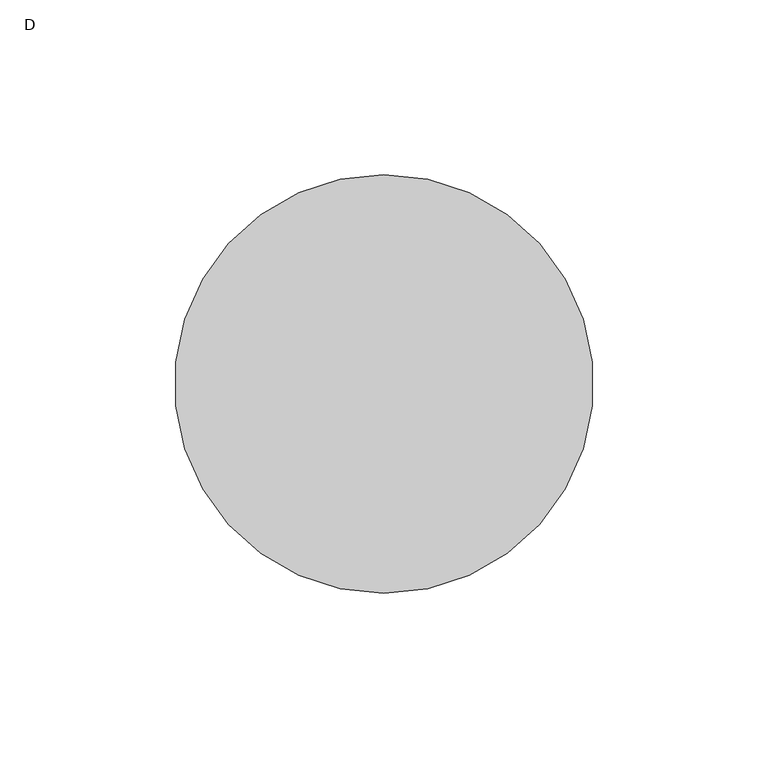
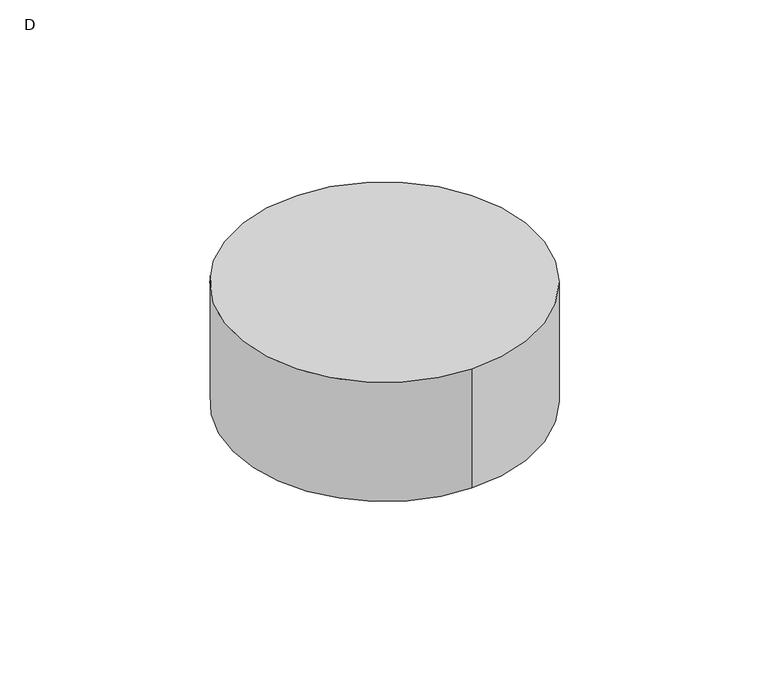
"""IFC4 building model written with IfcOpenShell, lengths in millimetres: switching device geometry, AI_Dispositif d'éclairage_Détecteur de présence : D."""

from ifc_helpers import new_model, si_unit, point, frame, origin, origin_2d, place, context, project, spatial, circle_curve, trimmed, segment, composite_curve, outline, extrude, source, transform, mapped, element, save


def d_9511c083(model_context):
    return source(origin(), model_context, "Body", "SweptSolid", [
        extrude(outline(composite_curve([segment(trimmed(circle_curve(origin_2d(), 60.0), [point((0.0, 60.0))], [point((0.0, -60.0))], False, "CARTESIAN"), True, "CONTINUOUS"), segment(trimmed(circle_curve(origin_2d(), 60.0), [point((0.0, -60.0))], [point((0.0, 60.0))], False, "CARTESIAN"), True, "CONTINUOUS")], self_intersect=False)), frame((0.0, 0.0, -50.0), z_axis=(0.0, 0.0, 1.0), x_axis=(1.0, 0.0, 0.0)), (0.0, 0.0, 1.0), 50.0),
    ])


if __name__ == "__main__":
    model = new_model("IFC4")
    model_context = context("Model", 3, world=origin())
    ifc_project = project(units=[si_unit("LENGTHUNIT", "METRE", prefix="MILLI")], contexts=[model_context])
    site = spatial("IfcSite", under=ifc_project)
    building = spatial("IfcBuilding", under=site)
    placement = place(None, origin())
    d_shape = d_9511c083(model_context)
    element("IfcSwitchingDevice", 1, ObjectType="AI_Dispositif d'éclairage_Détecteur de présence : D", at=placement, inside=building, context=model_context, shape_type="MappedRepresentation", body=[
        mapped(d_shape, transform((0.0, 0.0, 0.0), x_axis=(1.0, 0.0, 0.0), y_axis=(0.0, 1.0, 0.0), z_axis=(0.0, 0.0, 1.0))),
    ])
    save(model, "model.ifc")
